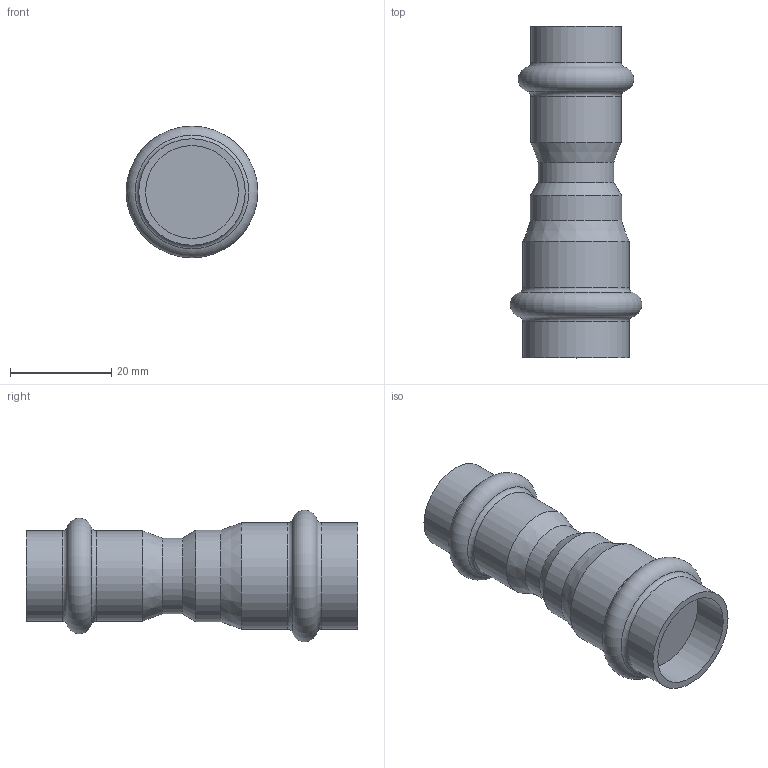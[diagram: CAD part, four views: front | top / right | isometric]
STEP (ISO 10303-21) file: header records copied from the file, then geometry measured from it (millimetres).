
FILE_DESCRIPTION(('STEP AP203'), '1');
FILE_NAME('VTi.903.I.001815', '', ('UNSPECIFIED'), ('UNSPECIFIED'), 'C3D Converter', 'C3D Toolkit', '');
FILE_SCHEMA(('CONFIG_CONTROL_DESIGN'));
Length unit declared in the file: millimetre
Bounding box: 25.99 x 65.5 x 25.99 mm (x, y, z)
Volume: 16419.4 mm3; surface area: 5689.2 mm2
Topology: 1 solids, 1 shells, 21 faces, 37 edges, 20 vertices
Faces by surface type: cylinder 8, torus 6, plane 4, cone 3
Full cylindrical faces by diameter (mm): 15 x1, 15.3 x1, 17.8 x2, 18 x1, 18.3 x1, 21 x2
Entity records: 454 total; most frequent: DIRECTION 84, CARTESIAN_POINT 62, AXIS2_PLACEMENT_3D 42, EDGE_LOOP 40, ORIENTED_EDGE 40, FACE_OUTER_BOUND 34, ADVANCED_FACE 21, EDGE_CURVE 20
